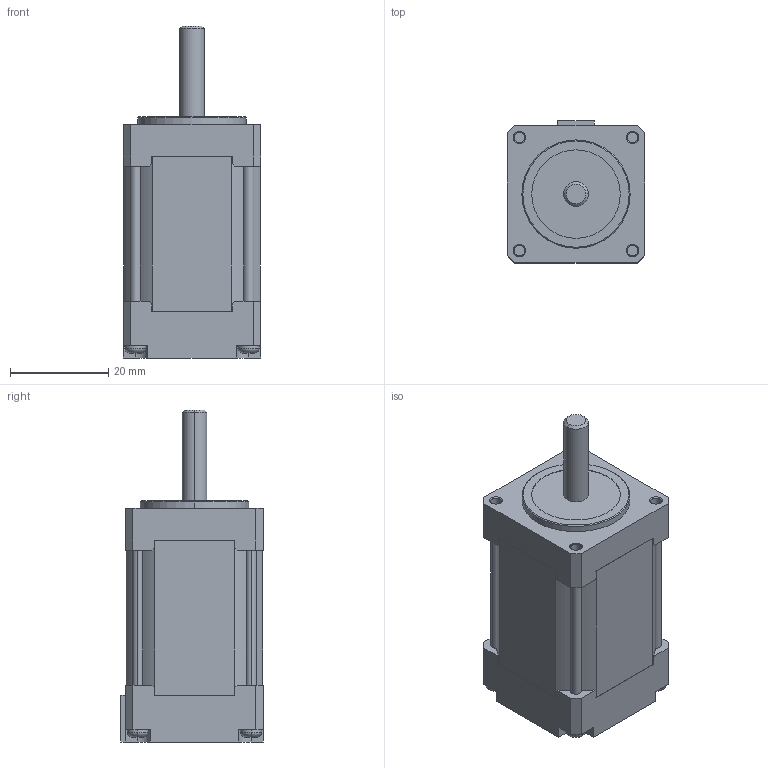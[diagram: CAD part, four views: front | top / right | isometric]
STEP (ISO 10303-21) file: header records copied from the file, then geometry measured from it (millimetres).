
FILE_DESCRIPTION (( 'STEP AP214' ), '1' );
FILE_NAME ('TS3641N2E3.STEP', '2011-09-15T08:50:30', ( '' ), ( '' ), 'SwSTEP 2.0', 'SolidWorks 2010', '' );
FILE_SCHEMA (( 'AUTOMOTIVE_DESIGN' ));
Length unit declared in the file: millimetre
Products named in the file (1): TS3641N2E3
Bounding box: 28 x 29 x 67.5 mm (x, y, z)
Volume: 36193.1 mm3; surface area: 8342.5 mm2
Topology: 1 solids, 5 shells, 252 faces, 686 edges, 446 vertices
Faces by surface type: plane 128, cylinder 94, cone 22, torus 8
Entity records: 8564 total; most frequent: CARTESIAN_POINT 1593, DIRECTION 1398, ORIENTED_EDGE 1372, EDGE_CURVE 686, AXIS2_PLACEMENT_3D 507, VERTEX_POINT 446, VECTOR 384, LINE 384
